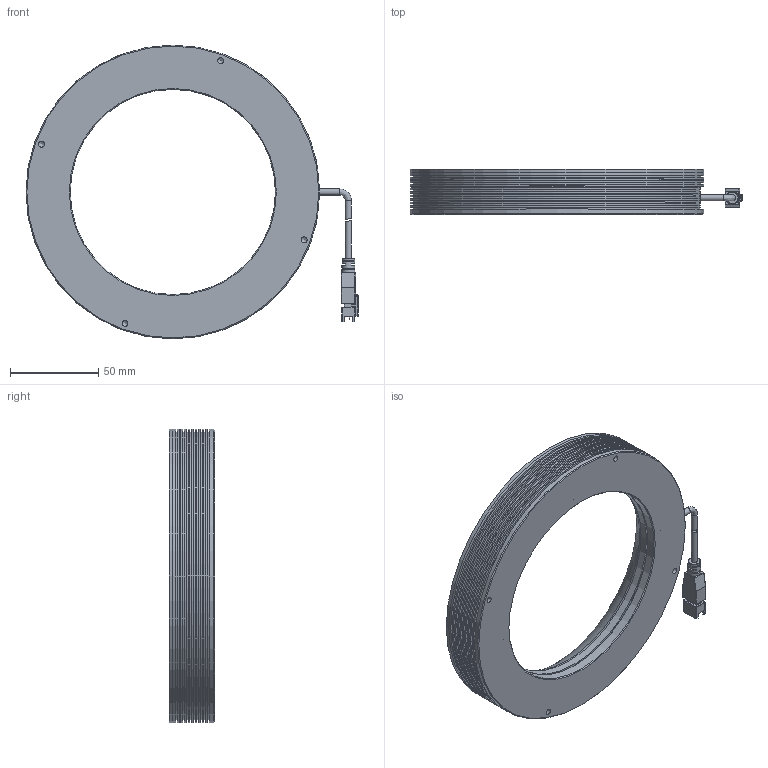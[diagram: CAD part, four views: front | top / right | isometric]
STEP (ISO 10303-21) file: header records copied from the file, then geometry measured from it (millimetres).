
FILE_DESCRIPTION (( 'STEP AP203' ), '1' );
FILE_NAME ('CST-HRS166-蚾饜极.STEP', '2021-04-01T10:37:44', ( '' ), ( '' ), 'SwSTEP 2.0', 'SolidWorks 2018', '' );
FILE_SCHEMA (( 'CONFIG_CONTROL_DESIGN' ));
Length unit declared in the file: millimetre
Products named in the file (2): CST-HRS166-蚾饜极
Bounding box: 187.66 x 25.5 x 166 mm (x, y, z)
Surface area: 95545.3 mm2 (no closed solid volume)
Topology: 0 solids, 4 shells, 301 faces, 781 edges, 493 vertices
Faces by surface type: plane 139, cylinder 107, cone 25, bspline 18, torus 12
Full cylindrical faces by diameter (mm): 1.6 x10, 2.4 x6, 3.3 x4, 3.5 x3, 6.8 x1, 116 x2, 120 x2, 153 x1, 163 x3, 166 x6
Entity records: 9278 total; most frequent: CARTESIAN_POINT 2239, DIRECTION 1443, ORIENTED_EDGE 1305, EDGE_CURVE 676, AXIS2_PLACEMENT_3D 527, VERTEX_POINT 468, EDGE_LOOP 414, VECTOR 389
